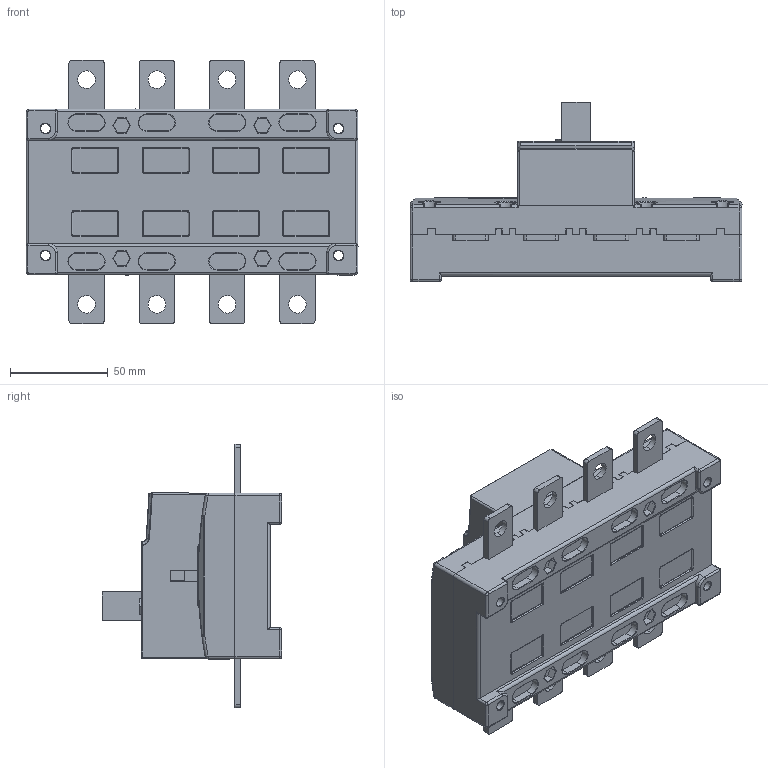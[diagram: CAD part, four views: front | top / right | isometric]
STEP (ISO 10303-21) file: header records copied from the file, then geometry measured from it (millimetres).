
FILE_DESCRIPTION((''),'2;1');
FILE_NAME('NH40-125-4_2018_05__ASM','2021-05-07T',('zhuanghy'),(''),'PRO/ENGINEER BY PARAMETRIC TECHNOLOGY CORPORATION, 2008380','PRO/ENGINEER BY PARAMETRIC TECHNOLOGY CORPORATION, 2008380','');
FILE_SCHEMA(('CONFIG_CONTROL_DESIGN'));
Length unit declared in the file: millimetre
Products named in the file (8): PRT1114_31; PRT103_38; PRT0048; PRT0049; PRT0050; ASM0006_ASM_1_ASM_ASM; NH40-160-4_ASM_ASM; NH40-125-4_2018_05__ASM
Assembly tree (14 placements, depth 4):
  NH40-125-4_2018_05__ASM
    NH40-160-4_ASM_ASM
      ASM0006_ASM_1_ASM_ASM
        PRT1114_31
        PRT103_38
        PRT0048
        PRT0049  x8
        PRT0050
Bounding box: 170 x 92 x 135 mm (x, y, z)
Volume: 555530.8 mm3; surface area: 145310.1 mm2
Topology: 12 solids, 12 shells, 1466 faces, 3953 edges, 2529 vertices
Faces by surface type: plane 682, cylinder 537, torus 145, bspline 74, sphere 26, cone 2
Entity records: 47962 total; most frequent: CARTESIAN_POINT 13271, ORIENTED_EDGE 7354, DIRECTION 7199, EDGE_CURVE 3677, AXIS2_PLACEMENT_3D 2524, VERTEX_POINT 2361, VECTOR 2151, LINE 2151
